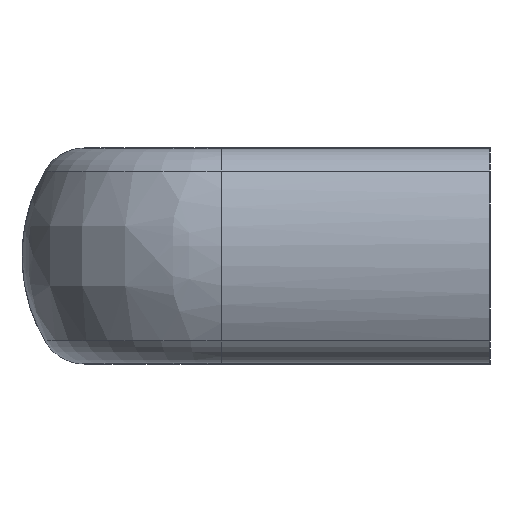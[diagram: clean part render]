
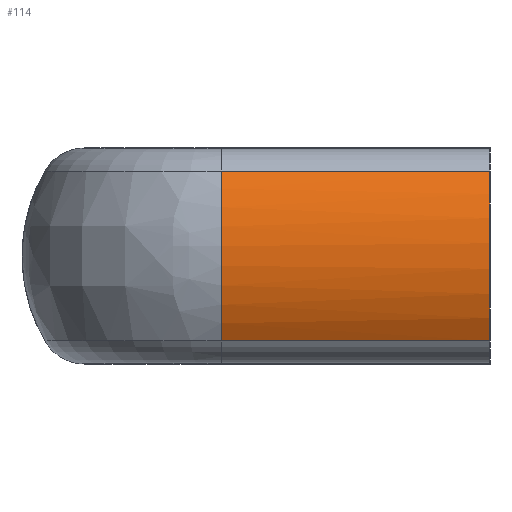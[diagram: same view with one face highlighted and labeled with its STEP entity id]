
A CAD part, left-side view. The second image highlights one B-rep face of the part: STEP entity #114.
In plain terms, the highlighted cylindrical face has radius 19.531 mm (diameter 39.062 mm), a partial arc.
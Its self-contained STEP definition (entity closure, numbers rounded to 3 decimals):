
#114 = ADVANCED_FACE( '', ( #216 ), #217, .T. );
#216 = FACE_OUTER_BOUND( '', #388, .T. );
#217 = CYLINDRICAL_SURFACE( '', #389, 19.531 );
#388 = EDGE_LOOP( '', ( #711, #712, #713, #714 ) );
#389 = AXIS2_PLACEMENT_3D( '', #715, #716, #717 );
#711 = ORIENTED_EDGE( '', *, *, #969, .T. );
#712 = ORIENTED_EDGE( '', *, *, #970, .F. );
#713 = ORIENTED_EDGE( '', *, *, #971, .F. );
#714 = ORIENTED_EDGE( '', *, *, #967, .T. );
#715 = CARTESIAN_POINT( '', ( -52.469, 0., 0. ) );
#716 = DIRECTION( '', ( 0., -1., 0. ) );
#717 = DIRECTION( '', ( 0., 0., 1. ) );
#967 = EDGE_CURVE( '', #1168, #1166, #1169, .T. );
#969 = EDGE_CURVE( '', #1166, #1171, #1172, .T. );
#970 = EDGE_CURVE( '', #1173, #1171, #1174, .T. );
#971 = EDGE_CURVE( '', #1168, #1173, #1175, .T. );
#1166 = VERTEX_POINT( '', #1464 );
#1168 = VERTEX_POINT( '', #1466 );
#1169 = LINE( '', #1467, #1468 );
#1171 = VERTEX_POINT( '', #1470 );
#1172 = CIRCLE( '', #1471, 19.531 );
#1173 = VERTEX_POINT( '', #1472 );
#1174 = LINE( '', #1473, #1474 );
#1175 = CIRCLE( '', #1475, 19.531 );
#1464 = CARTESIAN_POINT( '', ( -69.361, 31., 9.805 ) );
#1466 = CARTESIAN_POINT( '', ( -69.361, 0., 9.805 ) );
#1467 = CARTESIAN_POINT( '', ( -69.361, 0., 9.805 ) );
#1468 = VECTOR( '', #1732, 1000. );
#1470 = CARTESIAN_POINT( '', ( -69.361, 31., -9.805 ) );
#1471 = AXIS2_PLACEMENT_3D( '', #1736, #1737, #1738 );
#1472 = CARTESIAN_POINT( '', ( -69.361, 0., -9.805 ) );
#1473 = CARTESIAN_POINT( '', ( -69.361, 0., -9.805 ) );
#1474 = VECTOR( '', #1739, 1000. );
#1475 = AXIS2_PLACEMENT_3D( '', #1740, #1741, #1742 );
#1732 = DIRECTION( '', ( 0., 1., 0. ) );
#1736 = CARTESIAN_POINT( '', ( -52.469, 31., 0. ) );
#1737 = DIRECTION( '', ( 0., -1., 0. ) );
#1738 = DIRECTION( '', ( 0., 0., 1. ) );
#1739 = DIRECTION( '', ( 0., 1., 0. ) );
#1740 = CARTESIAN_POINT( '', ( -52.469, 0., 0. ) );
#1741 = DIRECTION( '', ( 0., -1., 0. ) );
#1742 = DIRECTION( '', ( 0., 0., 1. ) );
